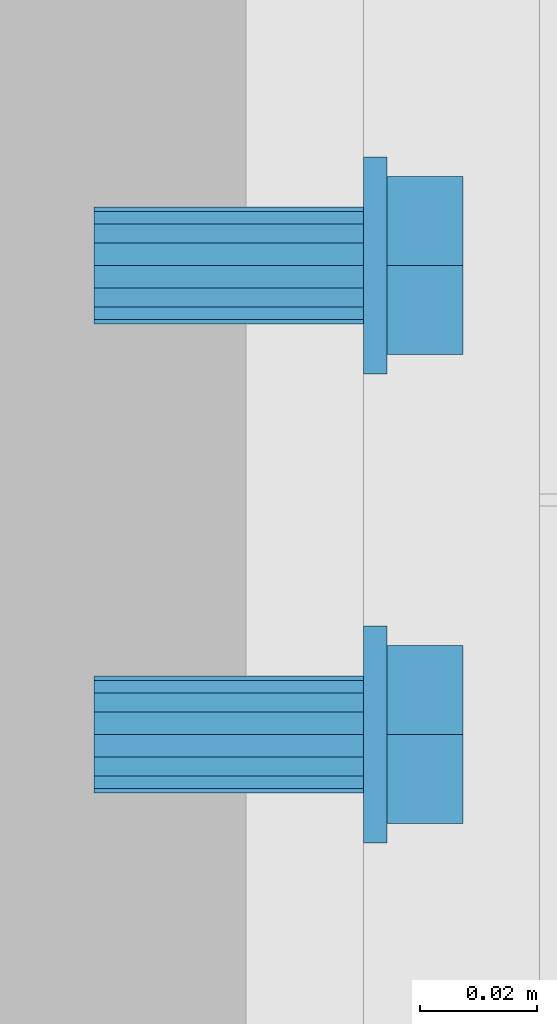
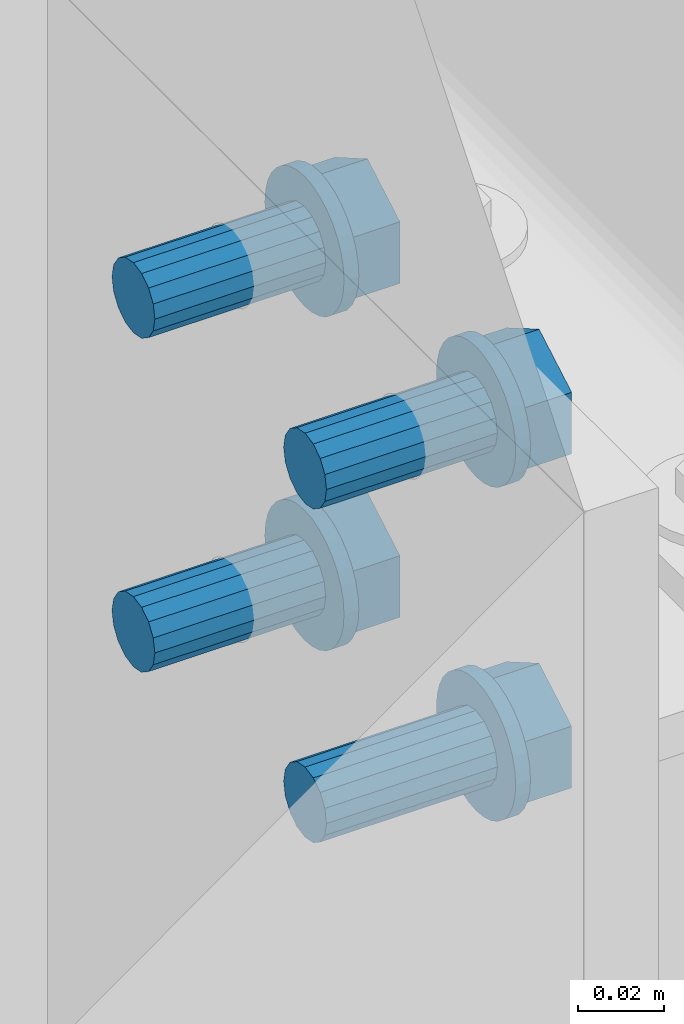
# One storey, part 308 of 410: 4 mechanical fasteners.
"""IFC2X3 building model written with IfcOpenShell, lengths in millimetres."""

from ifc_helpers import new_model, entity, si_unit, converted_unit, origin_with_axes, place, context, project, spatial, faceted_brep, element, save


model = new_model("IFC2X3")

# Units and contexts
model_context = context("Model", 3, precision=1e-09, world=origin_with_axes())
ifc_project = project(units=[si_unit("LENGTHUNIT", "METRE", prefix="MILLI"), si_unit("AREAUNIT", "SQUARE_METRE"), si_unit("VOLUMEUNIT", "CUBIC_METRE"), converted_unit("PLANEANGLEUNIT", "DEGREE", entity("IfcPlaneAngleMeasure", 0.01745329), si_unit("PLANEANGLEUNIT", "RADIAN"), dimensions=[0, 0, 0, 0, 0, 0, 0])], contexts=[model_context])

# Site, building, storey
site_placement = place(None, origin_with_axes())
site = spatial("IfcSite", under=ifc_project, at=site_placement, Name="mKR Teilneubau & Sanierung BA1 - Ostfildern", CompositionType="ELEMENT")
building_placement = place(site_placement, origin_with_axes())
building = spatial("IfcBuilding", under=site, at=building_placement, Name="Struktur 1", CompositionType="ELEMENT")
storey_placement = place(building_placement, origin_with_axes())
storey = spatial("IfcBuildingStorey", under=building, at=storey_placement, Name="Default Storey", CompositionType="ELEMENT", Elevation=0.0)

# Mechanical fasteners
mechanical_fastener_1_placement = place(None, origin_with_axes())
element("IfcMechanicalFastener", 1, at=mechanical_fastener_1_placement, inside=storey, ObjectType="-", NominalDiameter=20.0, NominalLength=50.0, context=model_context, shape_type="Brep", body=[
    faceted_brep([(1795.0, 16958.5, 5685.0), (1799.0, 16958.5, 5685.0), (1799.0, 16958.144527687, 5681.390829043), (1795.0, 16958.144527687, 5681.390829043), (1799.0, 16957.091771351, 5677.920356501), (1795.0, 16957.091771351, 5677.920356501), (1799.0, 16955.382187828, 5674.721950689), (1795.0, 16955.382187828, 5674.721950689), (1799.0, 16953.081475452, 5671.918524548), (1795.0, 16953.081475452, 5671.918524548), (1799.0, 16950.278049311, 5669.617812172), (1795.0, 16950.278049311, 5669.617812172), (1799.0, 16947.079643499, 5667.908228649), (1795.0, 16947.079643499, 5667.908228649), (1799.0, 16943.609170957, 5666.855472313), (1795.0, 16943.609170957, 5666.855472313), (1799.0, 16940.0, 5666.5), (1795.0, 16940.0, 5666.5), (1799.0, 16936.390829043, 5666.855472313), (1795.0, 16936.390829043, 5666.855472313), (1799.0, 16932.920356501, 5667.908228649), (1795.0, 16932.920356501, 5667.908228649), (1799.0, 16929.721950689, 5669.617812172), (1795.0, 16929.721950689, 5669.617812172), (1799.0, 16926.918524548, 5671.918524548), (1795.0, 16926.918524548, 5671.918524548), (1799.0, 16924.617812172, 5674.721950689), (1795.0, 16924.617812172, 5674.721950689), (1799.0, 16922.908228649, 5677.920356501), (1795.0, 16922.908228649, 5677.920356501), (1799.0, 16921.855472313, 5681.390829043), (1795.0, 16921.855472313, 5681.390829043), (1799.0, 16921.5, 5685.0), (1795.0, 16921.5, 5685.0), (1799.0, 16921.855472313, 5688.609170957), (1795.0, 16921.855472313, 5688.609170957), (1799.0, 16922.908228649, 5692.079643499), (1795.0, 16922.908228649, 5692.079643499), (1799.0, 16924.617812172, 5695.278049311), (1795.0, 16924.617812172, 5695.278049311), (1799.0, 16926.918524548, 5698.081475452), (1795.0, 16926.918524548, 5698.081475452), (1799.0, 16929.721950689, 5700.382187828), (1795.0, 16929.721950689, 5700.382187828), (1799.0, 16932.920356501, 5702.091771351), (1795.0, 16932.920356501, 5702.091771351), (1799.0, 16936.390829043, 5703.144527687), (1795.0, 16936.390829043, 5703.144527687), (1799.0, 16940.0, 5703.5), (1795.0, 16940.0, 5703.5), (1799.0, 16943.609170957, 5703.144527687), (1795.0, 16943.609170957, 5703.144527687), (1799.0, 16947.079643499, 5702.091771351), (1795.0, 16947.079643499, 5702.091771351), (1799.0, 16950.278049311, 5700.382187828), (1795.0, 16950.278049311, 5700.382187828), (1799.0, 16953.081475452, 5698.081475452), (1795.0, 16953.081475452, 5698.081475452), (1799.0, 16955.382187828, 5695.278049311), (1795.0, 16955.382187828, 5695.278049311), (1799.0, 16957.091771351, 5692.079643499), (1795.0, 16957.091771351, 5692.079643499), (1799.0, 16958.144527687, 5688.609170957), (1795.0, 16958.144527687, 5688.609170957)], [[[0, 1, 2, 3]], [[3, 2, 4, 5]], [[5, 4, 6, 7]], [[7, 6, 8, 9]], [[9, 8, 10, 11]], [[11, 10, 12, 13]], [[13, 12, 14, 15]], [[15, 14, 16, 17]], [[17, 16, 18, 19]], [[19, 18, 20, 21]], [[21, 20, 22, 23]], [[23, 22, 24, 25]], [[25, 24, 26, 27]], [[27, 26, 28, 29]], [[29, 28, 30, 31]], [[31, 30, 32, 33]], [[33, 32, 34, 35]], [[35, 34, 36, 37]], [[37, 36, 38, 39]], [[39, 38, 40, 41]], [[41, 40, 42, 43]], [[43, 42, 44, 45]], [[45, 44, 46, 47]], [[47, 46, 48, 49]], [[49, 48, 50, 51]], [[51, 50, 52, 53]], [[53, 52, 54, 55]], [[55, 54, 56, 57]], [[57, 56, 58, 59]], [[59, 58, 60, 61]], [[61, 60, 62, 63]], [[63, 62, 1, 0]], [[2, 1, 62, 60, 58, 56, 54, 52, 50, 48, 46, 44, 42, 40, 38, 36, 34, 32, 30, 28, 26, 24, 22, 20, 18, 16, 14, 12, 10, 8, 6, 4]], [[63, 0, 3, 5, 7, 9, 11, 13, 15, 17, 19, 21, 23, 25, 27, 29, 31, 33, 35, 37, 39, 41, 43, 45, 47, 49, 51, 53, 55, 57, 59, 61]]]),
    faceted_brep([(1812.0, 16924.831565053, 5676.2425), (1799.0, 16924.831565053, 5676.2425), (1799.0, 16940.0, 5667.485), (1812.0, 16940.0, 5667.485), (1799.0, 16955.168434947, 5676.2425), (1812.0, 16955.168434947, 5676.2425), (1799.0, 16955.168434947, 5693.7575), (1812.0, 16955.168434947, 5693.7575), (1799.0, 16940.0, 5702.515), (1812.0, 16940.0, 5702.515), (1799.0, 16924.831565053, 5693.7575), (1812.0, 16924.831565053, 5693.7575)], [[[0, 1, 2, 3]], [[3, 2, 4, 5]], [[5, 4, 6, 7]], [[7, 6, 8, 9]], [[9, 8, 10, 11]], [[11, 10, 1, 0]], [[3, 5, 7, 9, 11, 0]], [[2, 1, 10, 8, 6, 4]]]),
    faceted_brep([(1775.0, 16950.0, 5685.0), (1795.0, 16950.0, 5685.0), (1795.0, 16949.238795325, 5681.173165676), (1775.0, 16949.238795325, 5681.173165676), (1795.0, 16947.071067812, 5677.928932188), (1775.0, 16947.071067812, 5677.928932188), (1795.0, 16943.826834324, 5675.761204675), (1775.0, 16943.826834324, 5675.761204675), (1795.0, 16940.0, 5675.0), (1775.0, 16940.0, 5675.0), (1795.0, 16936.173165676, 5675.761204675), (1775.0, 16936.173165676, 5675.761204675), (1795.0, 16932.928932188, 5677.928932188), (1775.0, 16932.928932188, 5677.928932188), (1795.0, 16930.761204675, 5681.173165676), (1775.0, 16930.761204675, 5681.173165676), (1795.0, 16930.0, 5685.0), (1775.0, 16930.0, 5685.0), (1795.0, 16930.761204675, 5688.826834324), (1775.0, 16930.761204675, 5688.826834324), (1795.0, 16932.928932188, 5692.071067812), (1775.0, 16932.928932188, 5692.071067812), (1795.0, 16936.173165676, 5694.238795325), (1775.0, 16936.173165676, 5694.238795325), (1795.0, 16940.0, 5695.0), (1775.0, 16940.0, 5695.0), (1795.0, 16943.826834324, 5694.238795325), (1775.0, 16943.826834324, 5694.238795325), (1795.0, 16947.071067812, 5692.071067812), (1775.0, 16947.071067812, 5692.071067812), (1795.0, 16949.238795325, 5688.826834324), (1775.0, 16949.238795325, 5688.826834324)], [[[0, 1, 2, 3]], [[3, 2, 4, 5]], [[5, 4, 6, 7]], [[7, 6, 8, 9]], [[9, 8, 10, 11]], [[11, 10, 12, 13]], [[13, 12, 14, 15]], [[15, 14, 16, 17]], [[17, 16, 18, 19]], [[19, 18, 20, 21]], [[21, 20, 22, 23]], [[23, 22, 24, 25]], [[25, 24, 26, 27]], [[27, 26, 28, 29]], [[29, 28, 30, 31]], [[31, 30, 1, 0]], [[2, 1, 30, 28, 26, 24, 22, 20, 18, 16, 14, 12, 10, 8, 6, 4]], [[31, 0, 3, 5, 7, 9, 11, 13, 15, 17, 19, 21, 23, 25, 27, 29]]]),
    faceted_brep([(1749.0, 16950.0, 5685.0), (1775.0, 16950.0, 5685.0), (1775.0, 16949.238795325, 5681.173165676), (1749.0, 16949.238795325, 5681.173165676), (1775.0, 16947.071067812, 5677.928932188), (1749.0, 16947.071067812, 5677.928932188), (1775.0, 16943.826834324, 5675.761204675), (1749.0, 16943.826834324, 5675.761204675), (1775.0, 16940.0, 5675.0), (1749.0, 16940.0, 5675.0), (1775.0, 16936.173165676, 5675.761204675), (1749.0, 16936.173165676, 5675.761204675), (1775.0, 16932.928932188, 5677.928932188), (1749.0, 16932.928932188, 5677.928932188), (1775.0, 16930.761204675, 5681.173165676), (1749.0, 16930.761204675, 5681.173165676), (1775.0, 16930.0, 5685.0), (1749.0, 16930.0, 5685.0), (1775.0, 16930.761204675, 5688.826834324), (1749.0, 16930.761204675, 5688.826834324), (1775.0, 16932.928932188, 5692.071067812), (1749.0, 16932.928932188, 5692.071067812), (1775.0, 16936.173165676, 5694.238795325), (1749.0, 16936.173165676, 5694.238795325), (1775.0, 16940.0, 5695.0), (1749.0, 16940.0, 5695.0), (1775.0, 16943.826834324, 5694.238795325), (1749.0, 16943.826834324, 5694.238795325), (1775.0, 16947.071067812, 5692.071067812), (1749.0, 16947.071067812, 5692.071067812), (1775.0, 16949.238795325, 5688.826834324), (1749.0, 16949.238795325, 5688.826834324)], [[[0, 1, 2, 3]], [[3, 2, 4, 5]], [[5, 4, 6, 7]], [[7, 6, 8, 9]], [[9, 8, 10, 11]], [[11, 10, 12, 13]], [[13, 12, 14, 15]], [[15, 14, 16, 17]], [[17, 16, 18, 19]], [[19, 18, 20, 21]], [[21, 20, 22, 23]], [[23, 22, 24, 25]], [[25, 24, 26, 27]], [[27, 26, 28, 29]], [[29, 28, 30, 31]], [[31, 30, 1, 0]], [[2, 1, 30, 28, 26, 24, 22, 20, 18, 16, 14, 12, 10, 8, 6, 4]], [[31, 0, 3, 5, 7, 9, 11, 13, 15, 17, 19, 21, 23, 25, 27, 29]]]),
])
mechanical_fastener_2_placement = place(None, origin_with_axes())
element("IfcMechanicalFastener", 2, at=mechanical_fastener_2_placement, inside=storey, ObjectType="-", NominalDiameter=20.0, NominalLength=50.0, context=model_context, shape_type="Brep", body=[
    faceted_brep([(1795.0, 17038.5, 5685.0), (1799.0, 17038.5, 5685.0), (1799.0, 17038.144527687, 5681.390829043), (1795.0, 17038.144527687, 5681.390829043), (1799.0, 17037.091771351, 5677.920356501), (1795.0, 17037.091771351, 5677.920356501), (1799.0, 17035.382187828, 5674.721950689), (1795.0, 17035.382187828, 5674.721950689), (1799.0, 17033.081475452, 5671.918524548), (1795.0, 17033.081475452, 5671.918524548), (1799.0, 17030.278049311, 5669.617812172), (1795.0, 17030.278049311, 5669.617812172), (1799.0, 17027.079643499, 5667.908228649), (1795.0, 17027.079643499, 5667.908228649), (1799.0, 17023.609170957, 5666.855472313), (1795.0, 17023.609170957, 5666.855472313), (1799.0, 17020.0, 5666.5), (1795.0, 17020.0, 5666.5), (1799.0, 17016.390829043, 5666.855472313), (1795.0, 17016.390829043, 5666.855472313), (1799.0, 17012.920356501, 5667.908228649), (1795.0, 17012.920356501, 5667.908228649), (1799.0, 17009.721950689, 5669.617812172), (1795.0, 17009.721950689, 5669.617812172), (1799.0, 17006.918524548, 5671.918524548), (1795.0, 17006.918524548, 5671.918524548), (1799.0, 17004.617812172, 5674.721950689), (1795.0, 17004.617812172, 5674.721950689), (1799.0, 17002.908228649, 5677.920356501), (1795.0, 17002.908228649, 5677.920356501), (1799.0, 17001.855472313, 5681.390829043), (1795.0, 17001.855472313, 5681.390829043), (1799.0, 17001.5, 5685.0), (1795.0, 17001.5, 5685.0), (1799.0, 17001.855472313, 5688.609170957), (1795.0, 17001.855472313, 5688.609170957), (1799.0, 17002.908228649, 5692.079643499), (1795.0, 17002.908228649, 5692.079643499), (1799.0, 17004.617812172, 5695.278049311), (1795.0, 17004.617812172, 5695.278049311), (1799.0, 17006.918524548, 5698.081475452), (1795.0, 17006.918524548, 5698.081475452), (1799.0, 17009.721950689, 5700.382187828), (1795.0, 17009.721950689, 5700.382187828), (1799.0, 17012.920356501, 5702.091771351), (1795.0, 17012.920356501, 5702.091771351), (1799.0, 17016.390829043, 5703.144527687), (1795.0, 17016.390829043, 5703.144527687), (1799.0, 17020.0, 5703.5), (1795.0, 17020.0, 5703.5), (1799.0, 17023.609170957, 5703.144527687), (1795.0, 17023.609170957, 5703.144527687), (1799.0, 17027.079643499, 5702.091771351), (1795.0, 17027.079643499, 5702.091771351), (1799.0, 17030.278049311, 5700.382187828), (1795.0, 17030.278049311, 5700.382187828), (1799.0, 17033.081475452, 5698.081475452), (1795.0, 17033.081475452, 5698.081475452), (1799.0, 17035.382187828, 5695.278049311), (1795.0, 17035.382187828, 5695.278049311), (1799.0, 17037.091771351, 5692.079643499), (1795.0, 17037.091771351, 5692.079643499), (1799.0, 17038.144527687, 5688.609170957), (1795.0, 17038.144527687, 5688.609170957)], [[[0, 1, 2, 3]], [[3, 2, 4, 5]], [[5, 4, 6, 7]], [[7, 6, 8, 9]], [[9, 8, 10, 11]], [[11, 10, 12, 13]], [[13, 12, 14, 15]], [[15, 14, 16, 17]], [[17, 16, 18, 19]], [[19, 18, 20, 21]], [[21, 20, 22, 23]], [[23, 22, 24, 25]], [[25, 24, 26, 27]], [[27, 26, 28, 29]], [[29, 28, 30, 31]], [[31, 30, 32, 33]], [[33, 32, 34, 35]], [[35, 34, 36, 37]], [[37, 36, 38, 39]], [[39, 38, 40, 41]], [[41, 40, 42, 43]], [[43, 42, 44, 45]], [[45, 44, 46, 47]], [[47, 46, 48, 49]], [[49, 48, 50, 51]], [[51, 50, 52, 53]], [[53, 52, 54, 55]], [[55, 54, 56, 57]], [[57, 56, 58, 59]], [[59, 58, 60, 61]], [[61, 60, 62, 63]], [[63, 62, 1, 0]], [[2, 1, 62, 60, 58, 56, 54, 52, 50, 48, 46, 44, 42, 40, 38, 36, 34, 32, 30, 28, 26, 24, 22, 20, 18, 16, 14, 12, 10, 8, 6, 4]], [[63, 0, 3, 5, 7, 9, 11, 13, 15, 17, 19, 21, 23, 25, 27, 29, 31, 33, 35, 37, 39, 41, 43, 45, 47, 49, 51, 53, 55, 57, 59, 61]]]),
    faceted_brep([(1812.0, 17004.831565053, 5676.2425), (1799.0, 17004.831565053, 5676.2425), (1799.0, 17020.0, 5667.485), (1812.0, 17020.0, 5667.485), (1799.0, 17035.168434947, 5676.2425), (1812.0, 17035.168434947, 5676.2425), (1799.0, 17035.168434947, 5693.7575), (1812.0, 17035.168434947, 5693.7575), (1799.0, 17020.0, 5702.515), (1812.0, 17020.0, 5702.515), (1799.0, 17004.831565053, 5693.7575), (1812.0, 17004.831565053, 5693.7575)], [[[0, 1, 2, 3]], [[3, 2, 4, 5]], [[5, 4, 6, 7]], [[7, 6, 8, 9]], [[9, 8, 10, 11]], [[11, 10, 1, 0]], [[3, 5, 7, 9, 11, 0]], [[2, 1, 10, 8, 6, 4]]]),
    faceted_brep([(1775.0, 17030.0, 5685.0), (1795.0, 17030.0, 5685.0), (1795.0, 17029.238795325, 5681.173165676), (1775.0, 17029.238795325, 5681.173165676), (1795.0, 17027.071067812, 5677.928932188), (1775.0, 17027.071067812, 5677.928932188), (1795.0, 17023.826834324, 5675.761204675), (1775.0, 17023.826834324, 5675.761204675), (1795.0, 17020.0, 5675.0), (1775.0, 17020.0, 5675.0), (1795.0, 17016.173165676, 5675.761204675), (1775.0, 17016.173165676, 5675.761204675), (1795.0, 17012.928932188, 5677.928932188), (1775.0, 17012.928932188, 5677.928932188), (1795.0, 17010.761204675, 5681.173165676), (1775.0, 17010.761204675, 5681.173165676), (1795.0, 17010.0, 5685.0), (1775.0, 17010.0, 5685.0), (1795.0, 17010.761204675, 5688.826834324), (1775.0, 17010.761204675, 5688.826834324), (1795.0, 17012.928932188, 5692.071067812), (1775.0, 17012.928932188, 5692.071067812), (1795.0, 17016.173165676, 5694.238795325), (1775.0, 17016.173165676, 5694.238795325), (1795.0, 17020.0, 5695.0), (1775.0, 17020.0, 5695.0), (1795.0, 17023.826834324, 5694.238795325), (1775.0, 17023.826834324, 5694.238795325), (1795.0, 17027.071067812, 5692.071067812), (1775.0, 17027.071067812, 5692.071067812), (1795.0, 17029.238795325, 5688.826834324), (1775.0, 17029.238795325, 5688.826834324)], [[[0, 1, 2, 3]], [[3, 2, 4, 5]], [[5, 4, 6, 7]], [[7, 6, 8, 9]], [[9, 8, 10, 11]], [[11, 10, 12, 13]], [[13, 12, 14, 15]], [[15, 14, 16, 17]], [[17, 16, 18, 19]], [[19, 18, 20, 21]], [[21, 20, 22, 23]], [[23, 22, 24, 25]], [[25, 24, 26, 27]], [[27, 26, 28, 29]], [[29, 28, 30, 31]], [[31, 30, 1, 0]], [[2, 1, 30, 28, 26, 24, 22, 20, 18, 16, 14, 12, 10, 8, 6, 4]], [[31, 0, 3, 5, 7, 9, 11, 13, 15, 17, 19, 21, 23, 25, 27, 29]]]),
    faceted_brep([(1749.0, 17030.0, 5685.0), (1775.0, 17030.0, 5685.0), (1775.0, 17029.238795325, 5681.173165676), (1749.0, 17029.238795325, 5681.173165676), (1775.0, 17027.071067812, 5677.928932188), (1749.0, 17027.071067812, 5677.928932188), (1775.0, 17023.826834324, 5675.761204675), (1749.0, 17023.826834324, 5675.761204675), (1775.0, 17020.0, 5675.0), (1749.0, 17020.0, 5675.0), (1775.0, 17016.173165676, 5675.761204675), (1749.0, 17016.173165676, 5675.761204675), (1775.0, 17012.928932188, 5677.928932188), (1749.0, 17012.928932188, 5677.928932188), (1775.0, 17010.761204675, 5681.173165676), (1749.0, 17010.761204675, 5681.173165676), (1775.0, 17010.0, 5685.0), (1749.0, 17010.0, 5685.0), (1775.0, 17010.761204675, 5688.826834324), (1749.0, 17010.761204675, 5688.826834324), (1775.0, 17012.928932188, 5692.071067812), (1749.0, 17012.928932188, 5692.071067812), (1775.0, 17016.173165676, 5694.238795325), (1749.0, 17016.173165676, 5694.238795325), (1775.0, 17020.0, 5695.0), (1749.0, 17020.0, 5695.0), (1775.0, 17023.826834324, 5694.238795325), (1749.0, 17023.826834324, 5694.238795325), (1775.0, 17027.071067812, 5692.071067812), (1749.0, 17027.071067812, 5692.071067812), (1775.0, 17029.238795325, 5688.826834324), (1749.0, 17029.238795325, 5688.826834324)], [[[0, 1, 2, 3]], [[3, 2, 4, 5]], [[5, 4, 6, 7]], [[7, 6, 8, 9]], [[9, 8, 10, 11]], [[11, 10, 12, 13]], [[13, 12, 14, 15]], [[15, 14, 16, 17]], [[17, 16, 18, 19]], [[19, 18, 20, 21]], [[21, 20, 22, 23]], [[23, 22, 24, 25]], [[25, 24, 26, 27]], [[27, 26, 28, 29]], [[29, 28, 30, 31]], [[31, 30, 1, 0]], [[2, 1, 30, 28, 26, 24, 22, 20, 18, 16, 14, 12, 10, 8, 6, 4]], [[31, 0, 3, 5, 7, 9, 11, 13, 15, 17, 19, 21, 23, 25, 27, 29]]]),
])
mechanical_fastener_3_placement = place(None, origin_with_axes())
element("IfcMechanicalFastener", 3, at=mechanical_fastener_3_placement, inside=storey, ObjectType="-", NominalDiameter=20.0, NominalLength=50.0, context=model_context, shape_type="Brep", body=[
    faceted_brep([(1795.0, 17038.5, 5590.0), (1799.0, 17038.5, 5590.0), (1799.0, 17038.144527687, 5586.390829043), (1795.0, 17038.144527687, 5586.390829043), (1799.0, 17037.091771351, 5582.920356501), (1795.0, 17037.091771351, 5582.920356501), (1799.0, 17035.382187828, 5579.721950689), (1795.0, 17035.382187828, 5579.721950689), (1799.0, 17033.081475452, 5576.918524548), (1795.0, 17033.081475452, 5576.918524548), (1799.0, 17030.278049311, 5574.617812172), (1795.0, 17030.278049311, 5574.617812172), (1799.0, 17027.079643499, 5572.908228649), (1795.0, 17027.079643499, 5572.908228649), (1799.0, 17023.609170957, 5571.855472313), (1795.0, 17023.609170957, 5571.855472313), (1799.0, 17020.0, 5571.5), (1795.0, 17020.0, 5571.5), (1799.0, 17016.390829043, 5571.855472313), (1795.0, 17016.390829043, 5571.855472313), (1799.0, 17012.920356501, 5572.908228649), (1795.0, 17012.920356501, 5572.908228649), (1799.0, 17009.721950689, 5574.617812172), (1795.0, 17009.721950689, 5574.617812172), (1799.0, 17006.918524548, 5576.918524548), (1795.0, 17006.918524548, 5576.918524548), (1799.0, 17004.617812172, 5579.721950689), (1795.0, 17004.617812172, 5579.721950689), (1799.0, 17002.908228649, 5582.920356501), (1795.0, 17002.908228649, 5582.920356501), (1799.0, 17001.855472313, 5586.390829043), (1795.0, 17001.855472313, 5586.390829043), (1799.0, 17001.5, 5590.0), (1795.0, 17001.5, 5590.0), (1799.0, 17001.855472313, 5593.609170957), (1795.0, 17001.855472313, 5593.609170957), (1799.0, 17002.908228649, 5597.079643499), (1795.0, 17002.908228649, 5597.079643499), (1799.0, 17004.617812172, 5600.278049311), (1795.0, 17004.617812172, 5600.278049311), (1799.0, 17006.918524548, 5603.081475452), (1795.0, 17006.918524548, 5603.081475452), (1799.0, 17009.721950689, 5605.382187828), (1795.0, 17009.721950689, 5605.382187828), (1799.0, 17012.920356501, 5607.091771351), (1795.0, 17012.920356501, 5607.091771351), (1799.0, 17016.390829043, 5608.144527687), (1795.0, 17016.390829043, 5608.144527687), (1799.0, 17020.0, 5608.5), (1795.0, 17020.0, 5608.5), (1799.0, 17023.609170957, 5608.144527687), (1795.0, 17023.609170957, 5608.144527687), (1799.0, 17027.079643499, 5607.091771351), (1795.0, 17027.079643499, 5607.091771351), (1799.0, 17030.278049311, 5605.382187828), (1795.0, 17030.278049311, 5605.382187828), (1799.0, 17033.081475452, 5603.081475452), (1795.0, 17033.081475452, 5603.081475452), (1799.0, 17035.382187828, 5600.278049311), (1795.0, 17035.382187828, 5600.278049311), (1799.0, 17037.091771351, 5597.079643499), (1795.0, 17037.091771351, 5597.079643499), (1799.0, 17038.144527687, 5593.609170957), (1795.0, 17038.144527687, 5593.609170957)], [[[0, 1, 2, 3]], [[3, 2, 4, 5]], [[5, 4, 6, 7]], [[7, 6, 8, 9]], [[9, 8, 10, 11]], [[11, 10, 12, 13]], [[13, 12, 14, 15]], [[15, 14, 16, 17]], [[17, 16, 18, 19]], [[19, 18, 20, 21]], [[21, 20, 22, 23]], [[23, 22, 24, 25]], [[25, 24, 26, 27]], [[27, 26, 28, 29]], [[29, 28, 30, 31]], [[31, 30, 32, 33]], [[33, 32, 34, 35]], [[35, 34, 36, 37]], [[37, 36, 38, 39]], [[39, 38, 40, 41]], [[41, 40, 42, 43]], [[43, 42, 44, 45]], [[45, 44, 46, 47]], [[47, 46, 48, 49]], [[49, 48, 50, 51]], [[51, 50, 52, 53]], [[53, 52, 54, 55]], [[55, 54, 56, 57]], [[57, 56, 58, 59]], [[59, 58, 60, 61]], [[61, 60, 62, 63]], [[63, 62, 1, 0]], [[2, 1, 62, 60, 58, 56, 54, 52, 50, 48, 46, 44, 42, 40, 38, 36, 34, 32, 30, 28, 26, 24, 22, 20, 18, 16, 14, 12, 10, 8, 6, 4]], [[63, 0, 3, 5, 7, 9, 11, 13, 15, 17, 19, 21, 23, 25, 27, 29, 31, 33, 35, 37, 39, 41, 43, 45, 47, 49, 51, 53, 55, 57, 59, 61]]]),
    faceted_brep([(1812.0, 17004.831565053, 5581.2425), (1799.0, 17004.831565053, 5581.2425), (1799.0, 17020.0, 5572.485), (1812.0, 17020.0, 5572.485), (1799.0, 17035.168434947, 5581.2425), (1812.0, 17035.168434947, 5581.2425), (1799.0, 17035.168434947, 5598.7575), (1812.0, 17035.168434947, 5598.7575), (1799.0, 17020.0, 5607.515), (1812.0, 17020.0, 5607.515), (1799.0, 17004.831565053, 5598.7575), (1812.0, 17004.831565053, 5598.7575)], [[[0, 1, 2, 3]], [[3, 2, 4, 5]], [[5, 4, 6, 7]], [[7, 6, 8, 9]], [[9, 8, 10, 11]], [[11, 10, 1, 0]], [[3, 5, 7, 9, 11, 0]], [[2, 1, 10, 8, 6, 4]]]),
    faceted_brep([(1775.0, 17030.0, 5590.0), (1795.0, 17030.0, 5590.0), (1795.0, 17029.238795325, 5586.173165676), (1775.0, 17029.238795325, 5586.173165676), (1795.0, 17027.071067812, 5582.928932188), (1775.0, 17027.071067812, 5582.928932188), (1795.0, 17023.826834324, 5580.761204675), (1775.0, 17023.826834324, 5580.761204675), (1795.0, 17020.0, 5580.0), (1775.0, 17020.0, 5580.0), (1795.0, 17016.173165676, 5580.761204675), (1775.0, 17016.173165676, 5580.761204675), (1795.0, 17012.928932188, 5582.928932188), (1775.0, 17012.928932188, 5582.928932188), (1795.0, 17010.761204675, 5586.173165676), (1775.0, 17010.761204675, 5586.173165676), (1795.0, 17010.0, 5590.0), (1775.0, 17010.0, 5590.0), (1795.0, 17010.761204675, 5593.826834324), (1775.0, 17010.761204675, 5593.826834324), (1795.0, 17012.928932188, 5597.071067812), (1775.0, 17012.928932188, 5597.071067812), (1795.0, 17016.173165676, 5599.238795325), (1775.0, 17016.173165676, 5599.238795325), (1795.0, 17020.0, 5600.0), (1775.0, 17020.0, 5600.0), (1795.0, 17023.826834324, 5599.238795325), (1775.0, 17023.826834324, 5599.238795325), (1795.0, 17027.071067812, 5597.071067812), (1775.0, 17027.071067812, 5597.071067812), (1795.0, 17029.238795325, 5593.826834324), (1775.0, 17029.238795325, 5593.826834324)], [[[0, 1, 2, 3]], [[3, 2, 4, 5]], [[5, 4, 6, 7]], [[7, 6, 8, 9]], [[9, 8, 10, 11]], [[11, 10, 12, 13]], [[13, 12, 14, 15]], [[15, 14, 16, 17]], [[17, 16, 18, 19]], [[19, 18, 20, 21]], [[21, 20, 22, 23]], [[23, 22, 24, 25]], [[25, 24, 26, 27]], [[27, 26, 28, 29]], [[29, 28, 30, 31]], [[31, 30, 1, 0]], [[2, 1, 30, 28, 26, 24, 22, 20, 18, 16, 14, 12, 10, 8, 6, 4]], [[31, 0, 3, 5, 7, 9, 11, 13, 15, 17, 19, 21, 23, 25, 27, 29]]]),
    faceted_brep([(1749.0, 17030.0, 5590.0), (1775.0, 17030.0, 5590.0), (1775.0, 17029.238795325, 5586.173165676), (1749.0, 17029.238795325, 5586.173165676), (1775.0, 17027.071067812, 5582.928932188), (1749.0, 17027.071067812, 5582.928932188), (1775.0, 17023.826834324, 5580.761204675), (1749.0, 17023.826834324, 5580.761204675), (1775.0, 17020.0, 5580.0), (1749.0, 17020.0, 5580.0), (1775.0, 17016.173165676, 5580.761204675), (1749.0, 17016.173165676, 5580.761204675), (1775.0, 17012.928932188, 5582.928932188), (1749.0, 17012.928932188, 5582.928932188), (1775.0, 17010.761204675, 5586.173165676), (1749.0, 17010.761204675, 5586.173165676), (1775.0, 17010.0, 5590.0), (1749.0, 17010.0, 5590.0), (1775.0, 17010.761204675, 5593.826834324), (1749.0, 17010.761204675, 5593.826834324), (1775.0, 17012.928932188, 5597.071067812), (1749.0, 17012.928932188, 5597.071067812), (1775.0, 17016.173165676, 5599.238795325), (1749.0, 17016.173165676, 5599.238795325), (1775.0, 17020.0, 5600.0), (1749.0, 17020.0, 5600.0), (1775.0, 17023.826834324, 5599.238795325), (1749.0, 17023.826834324, 5599.238795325), (1775.0, 17027.071067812, 5597.071067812), (1749.0, 17027.071067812, 5597.071067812), (1775.0, 17029.238795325, 5593.826834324), (1749.0, 17029.238795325, 5593.826834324)], [[[0, 1, 2, 3]], [[3, 2, 4, 5]], [[5, 4, 6, 7]], [[7, 6, 8, 9]], [[9, 8, 10, 11]], [[11, 10, 12, 13]], [[13, 12, 14, 15]], [[15, 14, 16, 17]], [[17, 16, 18, 19]], [[19, 18, 20, 21]], [[21, 20, 22, 23]], [[23, 22, 24, 25]], [[25, 24, 26, 27]], [[27, 26, 28, 29]], [[29, 28, 30, 31]], [[31, 30, 1, 0]], [[2, 1, 30, 28, 26, 24, 22, 20, 18, 16, 14, 12, 10, 8, 6, 4]], [[31, 0, 3, 5, 7, 9, 11, 13, 15, 17, 19, 21, 23, 25, 27, 29]]]),
])
mechanical_fastener_4_placement = place(None, origin_with_axes())
element("IfcMechanicalFastener", 4, at=mechanical_fastener_4_placement, inside=storey, ObjectType="-", NominalDiameter=20.0, NominalLength=50.0, context=model_context, shape_type="Brep", body=[
    faceted_brep([(1795.0, 16958.5, 5590.0), (1799.0, 16958.5, 5590.0), (1799.0, 16958.144527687, 5586.390829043), (1795.0, 16958.144527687, 5586.390829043), (1799.0, 16957.091771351, 5582.920356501), (1795.0, 16957.091771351, 5582.920356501), (1799.0, 16955.382187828, 5579.721950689), (1795.0, 16955.382187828, 5579.721950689), (1799.0, 16953.081475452, 5576.918524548), (1795.0, 16953.081475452, 5576.918524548), (1799.0, 16950.278049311, 5574.617812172), (1795.0, 16950.278049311, 5574.617812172), (1799.0, 16947.079643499, 5572.908228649), (1795.0, 16947.079643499, 5572.908228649), (1799.0, 16943.609170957, 5571.855472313), (1795.0, 16943.609170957, 5571.855472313), (1799.0, 16940.0, 5571.5), (1795.0, 16940.0, 5571.5), (1799.0, 16936.390829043, 5571.855472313), (1795.0, 16936.390829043, 5571.855472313), (1799.0, 16932.920356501, 5572.908228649), (1795.0, 16932.920356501, 5572.908228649), (1799.0, 16929.721950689, 5574.617812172), (1795.0, 16929.721950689, 5574.617812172), (1799.0, 16926.918524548, 5576.918524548), (1795.0, 16926.918524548, 5576.918524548), (1799.0, 16924.617812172, 5579.721950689), (1795.0, 16924.617812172, 5579.721950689), (1799.0, 16922.908228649, 5582.920356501), (1795.0, 16922.908228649, 5582.920356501), (1799.0, 16921.855472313, 5586.390829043), (1795.0, 16921.855472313, 5586.390829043), (1799.0, 16921.5, 5590.0), (1795.0, 16921.5, 5590.0), (1799.0, 16921.855472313, 5593.609170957), (1795.0, 16921.855472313, 5593.609170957), (1799.0, 16922.908228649, 5597.079643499), (1795.0, 16922.908228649, 5597.079643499), (1799.0, 16924.617812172, 5600.278049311), (1795.0, 16924.617812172, 5600.278049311), (1799.0, 16926.918524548, 5603.081475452), (1795.0, 16926.918524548, 5603.081475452), (1799.0, 16929.721950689, 5605.382187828), (1795.0, 16929.721950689, 5605.382187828), (1799.0, 16932.920356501, 5607.091771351), (1795.0, 16932.920356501, 5607.091771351), (1799.0, 16936.390829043, 5608.144527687), (1795.0, 16936.390829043, 5608.144527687), (1799.0, 16940.0, 5608.5), (1795.0, 16940.0, 5608.5), (1799.0, 16943.609170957, 5608.144527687), (1795.0, 16943.609170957, 5608.144527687), (1799.0, 16947.079643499, 5607.091771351), (1795.0, 16947.079643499, 5607.091771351), (1799.0, 16950.278049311, 5605.382187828), (1795.0, 16950.278049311, 5605.382187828), (1799.0, 16953.081475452, 5603.081475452), (1795.0, 16953.081475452, 5603.081475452), (1799.0, 16955.382187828, 5600.278049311), (1795.0, 16955.382187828, 5600.278049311), (1799.0, 16957.091771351, 5597.079643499), (1795.0, 16957.091771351, 5597.079643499), (1799.0, 16958.144527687, 5593.609170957), (1795.0, 16958.144527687, 5593.609170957)], [[[0, 1, 2, 3]], [[3, 2, 4, 5]], [[5, 4, 6, 7]], [[7, 6, 8, 9]], [[9, 8, 10, 11]], [[11, 10, 12, 13]], [[13, 12, 14, 15]], [[15, 14, 16, 17]], [[17, 16, 18, 19]], [[19, 18, 20, 21]], [[21, 20, 22, 23]], [[23, 22, 24, 25]], [[25, 24, 26, 27]], [[27, 26, 28, 29]], [[29, 28, 30, 31]], [[31, 30, 32, 33]], [[33, 32, 34, 35]], [[35, 34, 36, 37]], [[37, 36, 38, 39]], [[39, 38, 40, 41]], [[41, 40, 42, 43]], [[43, 42, 44, 45]], [[45, 44, 46, 47]], [[47, 46, 48, 49]], [[49, 48, 50, 51]], [[51, 50, 52, 53]], [[53, 52, 54, 55]], [[55, 54, 56, 57]], [[57, 56, 58, 59]], [[59, 58, 60, 61]], [[61, 60, 62, 63]], [[63, 62, 1, 0]], [[2, 1, 62, 60, 58, 56, 54, 52, 50, 48, 46, 44, 42, 40, 38, 36, 34, 32, 30, 28, 26, 24, 22, 20, 18, 16, 14, 12, 10, 8, 6, 4]], [[63, 0, 3, 5, 7, 9, 11, 13, 15, 17, 19, 21, 23, 25, 27, 29, 31, 33, 35, 37, 39, 41, 43, 45, 47, 49, 51, 53, 55, 57, 59, 61]]]),
    faceted_brep([(1812.0, 16924.831565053, 5581.2425), (1799.0, 16924.831565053, 5581.2425), (1799.0, 16940.0, 5572.485), (1812.0, 16940.0, 5572.485), (1799.0, 16955.168434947, 5581.2425), (1812.0, 16955.168434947, 5581.2425), (1799.0, 16955.168434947, 5598.7575), (1812.0, 16955.168434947, 5598.7575), (1799.0, 16940.0, 5607.515), (1812.0, 16940.0, 5607.515), (1799.0, 16924.831565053, 5598.7575), (1812.0, 16924.831565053, 5598.7575)], [[[0, 1, 2, 3]], [[3, 2, 4, 5]], [[5, 4, 6, 7]], [[7, 6, 8, 9]], [[9, 8, 10, 11]], [[11, 10, 1, 0]], [[3, 5, 7, 9, 11, 0]], [[2, 1, 10, 8, 6, 4]]]),
    faceted_brep([(1775.0, 16950.0, 5590.0), (1795.0, 16950.0, 5590.0), (1795.0, 16949.238795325, 5586.173165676), (1775.0, 16949.238795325, 5586.173165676), (1795.0, 16947.071067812, 5582.928932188), (1775.0, 16947.071067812, 5582.928932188), (1795.0, 16943.826834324, 5580.761204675), (1775.0, 16943.826834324, 5580.761204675), (1795.0, 16940.0, 5580.0), (1775.0, 16940.0, 5580.0), (1795.0, 16936.173165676, 5580.761204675), (1775.0, 16936.173165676, 5580.761204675), (1795.0, 16932.928932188, 5582.928932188), (1775.0, 16932.928932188, 5582.928932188), (1795.0, 16930.761204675, 5586.173165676), (1775.0, 16930.761204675, 5586.173165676), (1795.0, 16930.0, 5590.0), (1775.0, 16930.0, 5590.0), (1795.0, 16930.761204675, 5593.826834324), (1775.0, 16930.761204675, 5593.826834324), (1795.0, 16932.928932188, 5597.071067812), (1775.0, 16932.928932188, 5597.071067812), (1795.0, 16936.173165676, 5599.238795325), (1775.0, 16936.173165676, 5599.238795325), (1795.0, 16940.0, 5600.0), (1775.0, 16940.0, 5600.0), (1795.0, 16943.826834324, 5599.238795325), (1775.0, 16943.826834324, 5599.238795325), (1795.0, 16947.071067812, 5597.071067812), (1775.0, 16947.071067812, 5597.071067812), (1795.0, 16949.238795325, 5593.826834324), (1775.0, 16949.238795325, 5593.826834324)], [[[0, 1, 2, 3]], [[3, 2, 4, 5]], [[5, 4, 6, 7]], [[7, 6, 8, 9]], [[9, 8, 10, 11]], [[11, 10, 12, 13]], [[13, 12, 14, 15]], [[15, 14, 16, 17]], [[17, 16, 18, 19]], [[19, 18, 20, 21]], [[21, 20, 22, 23]], [[23, 22, 24, 25]], [[25, 24, 26, 27]], [[27, 26, 28, 29]], [[29, 28, 30, 31]], [[31, 30, 1, 0]], [[2, 1, 30, 28, 26, 24, 22, 20, 18, 16, 14, 12, 10, 8, 6, 4]], [[31, 0, 3, 5, 7, 9, 11, 13, 15, 17, 19, 21, 23, 25, 27, 29]]]),
    faceted_brep([(1749.0, 16950.0, 5590.0), (1775.0, 16950.0, 5590.0), (1775.0, 16949.238795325, 5586.173165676), (1749.0, 16949.238795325, 5586.173165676), (1775.0, 16947.071067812, 5582.928932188), (1749.0, 16947.071067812, 5582.928932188), (1775.0, 16943.826834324, 5580.761204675), (1749.0, 16943.826834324, 5580.761204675), (1775.0, 16940.0, 5580.0), (1749.0, 16940.0, 5580.0), (1775.0, 16936.173165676, 5580.761204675), (1749.0, 16936.173165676, 5580.761204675), (1775.0, 16932.928932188, 5582.928932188), (1749.0, 16932.928932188, 5582.928932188), (1775.0, 16930.761204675, 5586.173165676), (1749.0, 16930.761204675, 5586.173165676), (1775.0, 16930.0, 5590.0), (1749.0, 16930.0, 5590.0), (1775.0, 16930.761204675, 5593.826834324), (1749.0, 16930.761204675, 5593.826834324), (1775.0, 16932.928932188, 5597.071067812), (1749.0, 16932.928932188, 5597.071067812), (1775.0, 16936.173165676, 5599.238795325), (1749.0, 16936.173165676, 5599.238795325), (1775.0, 16940.0, 5600.0), (1749.0, 16940.0, 5600.0), (1775.0, 16943.826834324, 5599.238795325), (1749.0, 16943.826834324, 5599.238795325), (1775.0, 16947.071067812, 5597.071067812), (1749.0, 16947.071067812, 5597.071067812), (1775.0, 16949.238795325, 5593.826834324), (1749.0, 16949.238795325, 5593.826834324)], [[[0, 1, 2, 3]], [[3, 2, 4, 5]], [[5, 4, 6, 7]], [[7, 6, 8, 9]], [[9, 8, 10, 11]], [[11, 10, 12, 13]], [[13, 12, 14, 15]], [[15, 14, 16, 17]], [[17, 16, 18, 19]], [[19, 18, 20, 21]], [[21, 20, 22, 23]], [[23, 22, 24, 25]], [[25, 24, 26, 27]], [[27, 26, 28, 29]], [[29, 28, 30, 31]], [[31, 30, 1, 0]], [[2, 1, 30, 28, 26, 24, 22, 20, 18, 16, 14, 12, 10, 8, 6, 4]], [[31, 0, 3, 5, 7, 9, 11, 13, 15, 17, 19, 21, 23, 25, 27, 29]]]),
])

save(model, "model.ifc")
